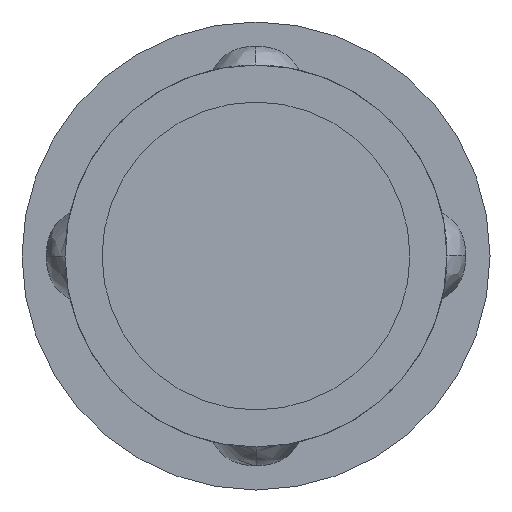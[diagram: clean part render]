
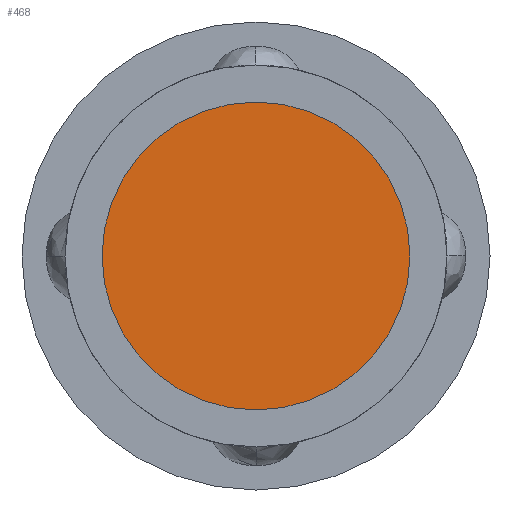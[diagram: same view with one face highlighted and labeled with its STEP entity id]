
A CAD part, front view. The second image highlights one B-rep face of the part: STEP entity #468.
In plain terms, the highlighted planar face has unit normal (0, -1, 0).
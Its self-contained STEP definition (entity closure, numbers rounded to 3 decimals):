
#61=PLANE('',#520);
#131=FACE_OUTER_BOUND('',#165,.T.);
#165=EDGE_LOOP('',(#439));
#195=CIRCLE('',#517,6.25);
#241=VERTEX_POINT('',#1395);
#307=EDGE_CURVE('',#241,#241,#195,.T.);
#439=ORIENTED_EDGE('',*,*,#307,.T.);
#468=ADVANCED_FACE('',(#131),#61,.T.);
#517=AXIS2_PLACEMENT_3D('',#1396,#635,#636);
#520=AXIS2_PLACEMENT_3D('',#1399,#641,#642);
#635=DIRECTION('center_axis',(0.,-1.,0.));
#636=DIRECTION('ref_axis',(-1.,0.,0.));
#641=DIRECTION('center_axis',(0.,-1.,0.));
#642=DIRECTION('ref_axis',(0.,0.,-1.));
#1395=CARTESIAN_POINT('',(6.25,0.,0.));
#1396=CARTESIAN_POINT('Origin',(0.,0.,0.));
#1399=CARTESIAN_POINT('Origin',(0.,0.,0.));
